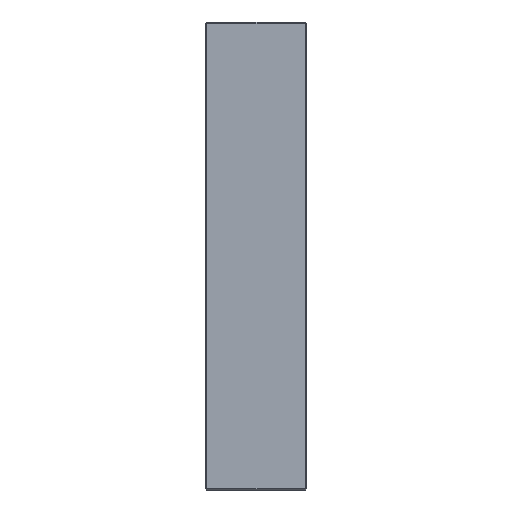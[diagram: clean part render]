
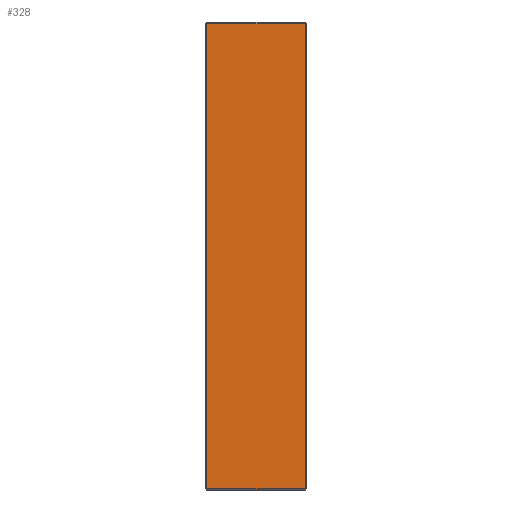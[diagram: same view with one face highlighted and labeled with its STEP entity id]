
A CAD part, left-side view. The second image highlights one B-rep face of the part: STEP entity #328.
In plain terms, the highlighted planar face has unit normal (-1, 0, 0).
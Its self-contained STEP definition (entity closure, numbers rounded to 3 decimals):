
#20 = DIRECTION ( 'NONE',  ( 0., 0., 1. ) ) ;
#122 = CARTESIAN_POINT ( 'NONE',  ( -223., 95., 223. ) ) ;
#157 = DIRECTION ( 'NONE',  ( 0., -1., 0. ) ) ;
#203 = EDGE_LOOP ( 'NONE', ( #1317, #2084, #2238, #2437 ) ) ;
#242 = VERTEX_POINT ( 'NONE', #1725 ) ;
#328 = ADVANCED_FACE ( 'NONE', ( #952 ), #955, .F. ) ;
#357 = CARTESIAN_POINT ( 'NONE',  ( -223., 1., -222. ) ) ;
#412 = CARTESIAN_POINT ( 'NONE',  ( -223., 1., 223. ) ) ;
#419 = EDGE_CURVE ( 'NONE', #1527, #242, #1787, .T. ) ;
#532 = LINE ( 'NONE', #1961, #1486 ) ;
#726 = CARTESIAN_POINT ( 'NONE',  ( -223., 95., 222. ) ) ;
#760 = CARTESIAN_POINT ( 'NONE',  ( -223., 96., 223. ) ) ;
#782 = CARTESIAN_POINT ( 'NONE',  ( -223., 96., -222. ) ) ;
#831 = VECTOR ( 'NONE', #972, 1000. ) ;
#952 = FACE_OUTER_BOUND ( 'NONE', #203, .T. ) ;
#955 = PLANE ( 'NONE',  #2207 ) ;
#972 = DIRECTION ( 'NONE',  ( 0., 0., -1. ) ) ;
#1131 = VERTEX_POINT ( 'NONE', #726 ) ;
#1140 = DIRECTION ( 'NONE',  ( 1., 0., 0. ) ) ;
#1182 = DIRECTION ( 'NONE',  ( 0., 0., -1. ) ) ;
#1198 = EDGE_CURVE ( 'NONE', #242, #1131, #532, .T. ) ;
#1317 = ORIENTED_EDGE ( 'NONE', *, *, #1198, .T. ) ;
#1432 = EDGE_CURVE ( 'NONE', #2561, #1527, #1458, .T. ) ;
#1458 = LINE ( 'NONE', #782, #1923 ) ;
#1486 = VECTOR ( 'NONE', #2003, 1000. ) ;
#1527 = VERTEX_POINT ( 'NONE', #357 ) ;
#1725 = CARTESIAN_POINT ( 'NONE',  ( -223., 1., 222. ) ) ;
#1777 = CARTESIAN_POINT ( 'NONE',  ( -223., 95., -222. ) ) ;
#1787 = LINE ( 'NONE', #412, #1854 ) ;
#1854 = VECTOR ( 'NONE', #20, 1000. ) ;
#1860 = LINE ( 'NONE', #122, #831 ) ;
#1923 = VECTOR ( 'NONE', #157, 1000. ) ;
#1961 = CARTESIAN_POINT ( 'NONE',  ( -223., 96., 222. ) ) ;
#2003 = DIRECTION ( 'NONE',  ( 0., 1., 0. ) ) ;
#2084 = ORIENTED_EDGE ( 'NONE', *, *, #2393, .T. ) ;
#2207 = AXIS2_PLACEMENT_3D ( 'NONE', #760, #1140, #1182 ) ;
#2238 = ORIENTED_EDGE ( 'NONE', *, *, #1432, .T. ) ;
#2393 = EDGE_CURVE ( 'NONE', #1131, #2561, #1860, .T. ) ;
#2437 = ORIENTED_EDGE ( 'NONE', *, *, #419, .T. ) ;
#2561 = VERTEX_POINT ( 'NONE', #1777 ) ;
